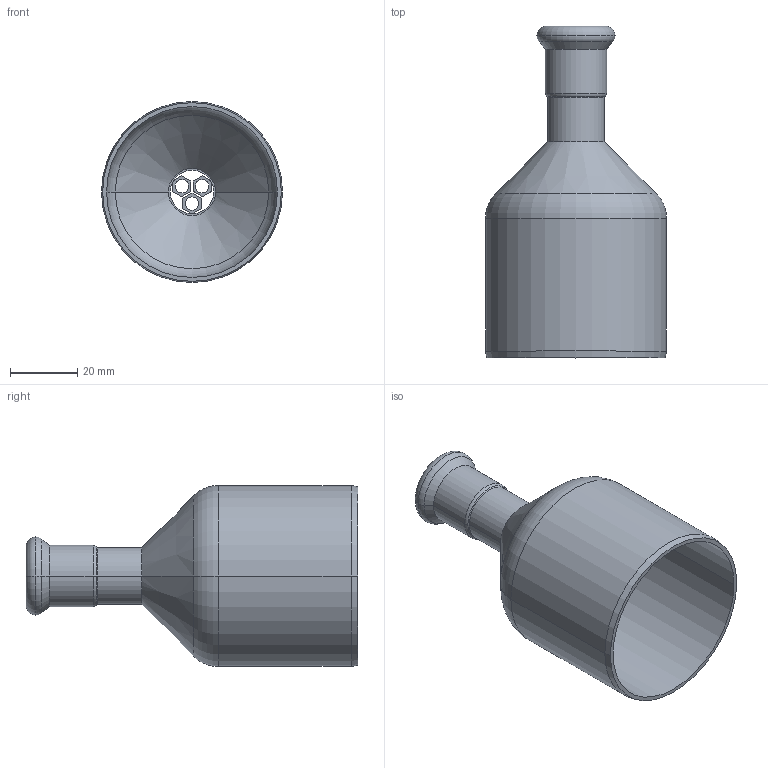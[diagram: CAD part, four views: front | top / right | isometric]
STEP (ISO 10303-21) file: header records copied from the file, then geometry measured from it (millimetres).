
FILE_DESCRIPTION(('OneSpaceDesigner STEP Export'),'2;1');
FILE_NAME('R2707 15x54.stp','2010-06-09T12:55:45',(''),(''),'OneSpace Designer STEP processor for AP214 (Solid Model)','OneSpace Modeling 15.00A 14-Mar-2007 (C) CoCreate Software GmbH','');
FILE_SCHEMA(('AUTOMOTIVE_DESIGN { 1 0 10303 214 1 1 1 1 }'));
Length unit declared in the file: millimetre
Products named in the file (2): R2707_15x54
Assembly tree (1 placements, depth 2):
  R2707_15x54
    R2707_15x54
Bounding box: 54 x 99 x 54 mm (x, y, z)
Volume: 17708.6 mm3; surface area: 24985.4 mm2
Topology: 1 solids, 1 shells, 77 faces, 181 edges, 112 vertices
Faces by surface type: plane 32, cylinder 25, cone 10, torus 10
Entity records: 1978 total; most frequent: ORIENTED_EDGE 362, CARTESIAN_POINT 314, DIRECTION 303, EDGE_CURVE 181, VERTEX_POINT 112, AXIS2_PLACEMENT_3D 101, VECTOR 101, LINE 101
